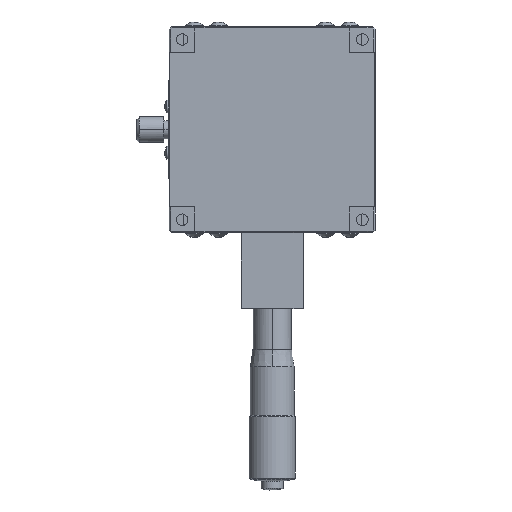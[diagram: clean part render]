
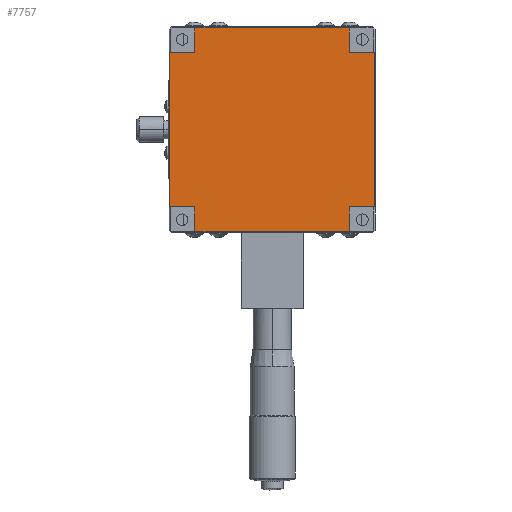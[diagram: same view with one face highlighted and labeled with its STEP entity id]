
A CAD part, front view. The second image highlights one B-rep face of the part: STEP entity #7757.
In plain terms, the highlighted planar face has unit normal (0, -1, 0).
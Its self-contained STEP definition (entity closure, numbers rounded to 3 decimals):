
#186 = VECTOR ( 'NONE', #2732, 1000. ) ;
#260 = EDGE_LOOP ( 'NONE', ( #14483, #10098, #541, #6014, #2492, #13079, #5110, #5061, #6565, #13699, #9341, #8732 ) ) ;
#275 = VERTEX_POINT ( 'NONE', #12690 ) ;
#362 = EDGE_CURVE ( 'NONE', #15998, #275, #10899, .T. ) ;
#402 = EDGE_CURVE ( 'NONE', #1197, #15119, #9710, .T. ) ;
#418 = LINE ( 'NONE', #10029, #4299 ) ;
#541 = ORIENTED_EDGE ( 'NONE', *, *, #13325, .T. ) ;
#770 = DIRECTION ( 'NONE',  ( 1., 0., 0. ) ) ;
#967 = CARTESIAN_POINT ( 'NONE',  ( -5.485, 7.041, -1.05 ) ) ;
#1038 = VECTOR ( 'NONE', #1496, 1000. ) ;
#1102 = EDGE_CURVE ( 'NONE', #275, #1813, #13401, .T. ) ;
#1197 = VERTEX_POINT ( 'NONE', #15276 ) ;
#1348 = EDGE_CURVE ( 'NONE', #15119, #11151, #11074, .T. ) ;
#1420 = LINE ( 'NONE', #12782, #1038 ) ;
#1487 = CARTESIAN_POINT ( 'NONE',  ( -5.485, 7.041, 58.95 ) ) ;
#1488 = DIRECTION ( 'NONE',  ( -1., 0., 0. ) ) ;
#1496 = DIRECTION ( 'NONE',  ( 0., 0., -1. ) ) ;
#1801 = CARTESIAN_POINT ( 'NONE',  ( -75.185, 7.041, -1.05 ) ) ;
#1813 = VERTEX_POINT ( 'NONE', #967 ) ;
#2492 = ORIENTED_EDGE ( 'NONE', *, *, #14902, .T. ) ;
#2507 = DIRECTION ( 'NONE',  ( 1., 0., 0. ) ) ;
#2732 = DIRECTION ( 'NONE',  ( 1., 0., 0. ) ) ;
#2733 = VECTOR ( 'NONE', #9069, 1000. ) ;
#2853 = EDGE_CURVE ( 'NONE', #9271, #8066, #5137, .T. ) ;
#2885 = VECTOR ( 'NONE', #1488, 1000. ) ;
#2995 = CARTESIAN_POINT ( 'NONE',  ( -15.185, 7.041, -10.75 ) ) ;
#3118 = DIRECTION ( 'NONE',  ( -1., 0., 0. ) ) ;
#3359 = DIRECTION ( 'NONE',  ( 0., 0., 1. ) ) ;
#3649 = CARTESIAN_POINT ( 'NONE',  ( -15.185, 7.041, -1.05 ) ) ;
#3678 = DIRECTION ( 'NONE',  ( 0., 0., -1. ) ) ;
#3941 = CARTESIAN_POINT ( 'NONE',  ( -15.185, 7.041, 58.95 ) ) ;
#4076 = VECTOR ( 'NONE', #770, 1000. ) ;
#4208 = CARTESIAN_POINT ( 'NONE',  ( -15.185, 7.041, 68.65 ) ) ;
#4299 = VECTOR ( 'NONE', #3678, 1000. ) ;
#4938 = AXIS2_PLACEMENT_3D ( 'NONE', #8735, #7795, #5018 ) ;
#4965 = PLANE ( 'NONE',  #4938 ) ;
#5018 = DIRECTION ( 'NONE',  ( 0., 0., -1. ) ) ;
#5061 = ORIENTED_EDGE ( 'NONE', *, *, #1102, .T. ) ;
#5110 = ORIENTED_EDGE ( 'NONE', *, *, #362, .T. ) ;
#5137 = LINE ( 'NONE', #5428, #9657 ) ;
#5428 = CARTESIAN_POINT ( 'NONE',  ( -15.185, 7.041, 58.95 ) ) ;
#5563 = VERTEX_POINT ( 'NONE', #1487 ) ;
#5691 = EDGE_CURVE ( 'NONE', #10497, #15998, #15986, .T. ) ;
#5852 = CARTESIAN_POINT ( 'NONE',  ( -75.185, 7.041, 68.65 ) ) ;
#6014 = ORIENTED_EDGE ( 'NONE', *, *, #15921, .T. ) ;
#6105 = CARTESIAN_POINT ( 'NONE',  ( -15.185, 7.041, -19.558 ) ) ;
#6365 = VECTOR ( 'NONE', #3359, 1000. ) ;
#6565 = ORIENTED_EDGE ( 'NONE', *, *, #8668, .T. ) ;
#6761 = VECTOR ( 'NONE', #14531, 1000. ) ;
#7116 = CARTESIAN_POINT ( 'NONE',  ( -5.485, 7.041, -19.558 ) ) ;
#7300 = LINE ( 'NONE', #7116, #9264 ) ;
#7360 = CARTESIAN_POINT ( 'NONE',  ( -75.185, 7.041, 58.95 ) ) ;
#7572 = LINE ( 'NONE', #3941, #8369 ) ;
#7757 = ADVANCED_FACE ( 'NONE', ( #8879 ), #4965, .T. ) ;
#7795 = DIRECTION ( 'NONE',  ( 0., -1., 0. ) ) ;
#7913 = VERTEX_POINT ( 'NONE', #1801 ) ;
#8066 = VERTEX_POINT ( 'NONE', #12140 ) ;
#8249 = CARTESIAN_POINT ( 'NONE',  ( -15.185, 7.041, -10.75 ) ) ;
#8369 = VECTOR ( 'NONE', #12640, 1000. ) ;
#8434 = DIRECTION ( 'NONE',  ( 0., 0., 1. ) ) ;
#8668 = EDGE_CURVE ( 'NONE', #1813, #5563, #7300, .T. ) ;
#8732 = ORIENTED_EDGE ( 'NONE', *, *, #1348, .T. ) ;
#8735 = CARTESIAN_POINT ( 'NONE',  ( -15.185, 7.041, -19.558 ) ) ;
#8879 = FACE_OUTER_BOUND ( 'NONE', #260, .T. ) ;
#9069 = DIRECTION ( 'NONE',  ( 0., 0., -1. ) ) ;
#9264 = VECTOR ( 'NONE', #8434, 1000. ) ;
#9271 = VERTEX_POINT ( 'NONE', #7360 ) ;
#9341 = ORIENTED_EDGE ( 'NONE', *, *, #402, .T. ) ;
#9657 = VECTOR ( 'NONE', #3118, 1000. ) ;
#9710 = LINE ( 'NONE', #6105, #6365 ) ;
#10029 = CARTESIAN_POINT ( 'NONE',  ( -75.185, 7.041, -19.558 ) ) ;
#10098 = ORIENTED_EDGE ( 'NONE', *, *, #2853, .T. ) ;
#10166 = CARTESIAN_POINT ( 'NONE',  ( -15.185, 7.041, -1.05 ) ) ;
#10497 = VERTEX_POINT ( 'NONE', #11145 ) ;
#10899 = LINE ( 'NONE', #13274, #6761 ) ;
#11074 = LINE ( 'NONE', #13886, #2885 ) ;
#11145 = CARTESIAN_POINT ( 'NONE',  ( -75.185, 7.041, -10.75 ) ) ;
#11151 = VERTEX_POINT ( 'NONE', #5852 ) ;
#12140 = CARTESIAN_POINT ( 'NONE',  ( -84.885, 7.041, 58.95 ) ) ;
#12625 = CARTESIAN_POINT ( 'NONE',  ( -84.885, 7.041, -1.05 ) ) ;
#12640 = DIRECTION ( 'NONE',  ( -1., 0., 0. ) ) ;
#12690 = CARTESIAN_POINT ( 'NONE',  ( -15.185, 7.041, -1.05 ) ) ;
#12782 = CARTESIAN_POINT ( 'NONE',  ( -84.885, 7.041, -19.558 ) ) ;
#12885 = CARTESIAN_POINT ( 'NONE',  ( -75.185, 7.041, -19.558 ) ) ;
#13079 = ORIENTED_EDGE ( 'NONE', *, *, #5691, .T. ) ;
#13274 = CARTESIAN_POINT ( 'NONE',  ( -15.185, 7.041, -19.558 ) ) ;
#13325 = EDGE_CURVE ( 'NONE', #8066, #13906, #1420, .T. ) ;
#13401 = LINE ( 'NONE', #3649, #14389 ) ;
#13621 = LINE ( 'NONE', #10166, #186 ) ;
#13699 = ORIENTED_EDGE ( 'NONE', *, *, #15016, .T. ) ;
#13886 = CARTESIAN_POINT ( 'NONE',  ( -15.185, 7.041, 68.65 ) ) ;
#13906 = VERTEX_POINT ( 'NONE', #12625 ) ;
#14389 = VECTOR ( 'NONE', #2507, 1000. ) ;
#14483 = ORIENTED_EDGE ( 'NONE', *, *, #16013, .T. ) ;
#14531 = DIRECTION ( 'NONE',  ( 0., 0., 1. ) ) ;
#14902 = EDGE_CURVE ( 'NONE', #7913, #10497, #418, .T. ) ;
#14968 = LINE ( 'NONE', #12885, #2733 ) ;
#15016 = EDGE_CURVE ( 'NONE', #5563, #1197, #7572, .T. ) ;
#15119 = VERTEX_POINT ( 'NONE', #4208 ) ;
#15276 = CARTESIAN_POINT ( 'NONE',  ( -15.185, 7.041, 58.95 ) ) ;
#15921 = EDGE_CURVE ( 'NONE', #13906, #7913, #13621, .T. ) ;
#15986 = LINE ( 'NONE', #8249, #4076 ) ;
#15998 = VERTEX_POINT ( 'NONE', #2995 ) ;
#16013 = EDGE_CURVE ( 'NONE', #11151, #9271, #14968, .T. ) ;
